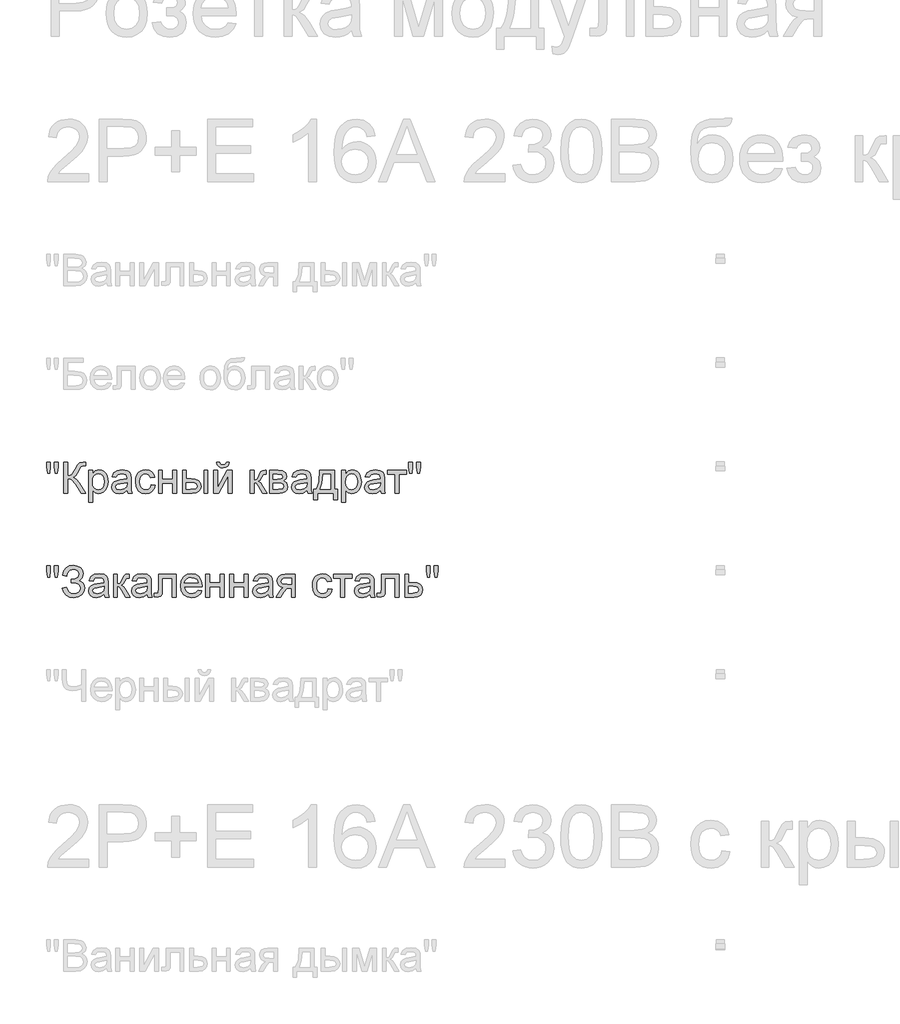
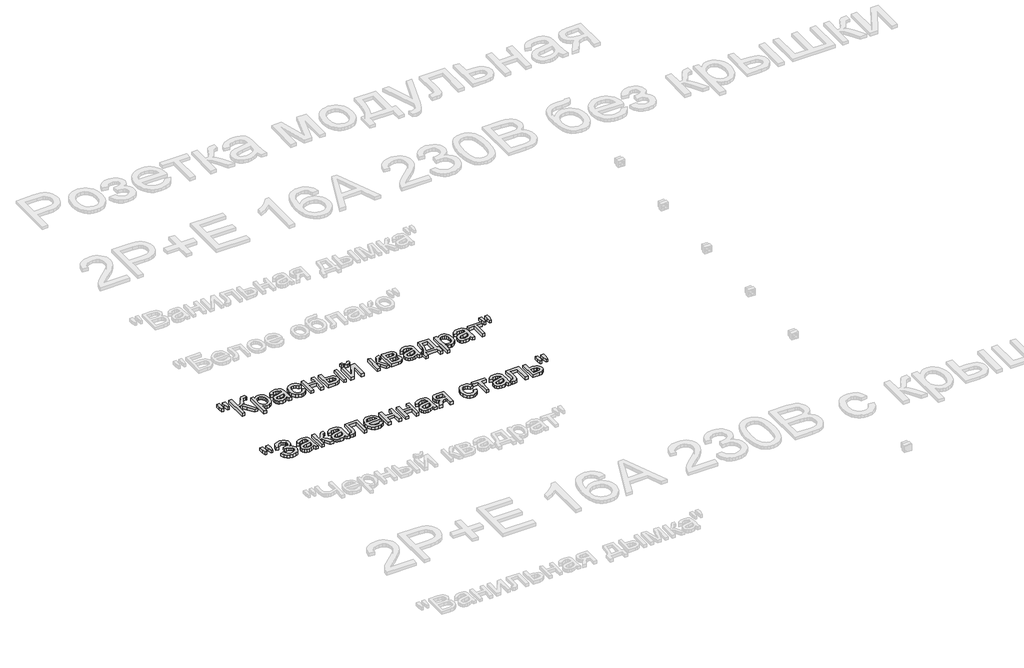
# One storey, part 48 of 168: 2 proxies.
"""IFC4 building model written with IfcOpenShell, lengths in millimetres."""

from ifc_helpers import new_model, si_unit, origin, origin_with_axes, place, context, project, spatial, polyline, outline, extrude, element, save

model = new_model("IFC4")

# Units and contexts
model_context = context("Model", 3, world=origin())
ifc_project = project(units=[si_unit("LENGTHUNIT", "METRE", prefix="MILLI")], contexts=[model_context])

# Site, building, storey
site = spatial("IfcSite", under=ifc_project)
building = spatial("IfcBuilding", under=site)
storey = spatial("IfcBuildingStorey", under=building, Name="Этаж 01", Elevation=0.0)

# Proxies
placement = place(None, origin())
element("IfcBuildingElementProxy", 1, Name="150", ObjectType="150", at=placement, inside=storey, context=model_context, shape_type="SweptSolid", body=[
    extrude(outline(polyline([(41980.1485789, -33070.3300622), (41975.550054, -33041.2305964), (41975.550054, -33016.1778325), (41994.3856121, -33016.1778325), (41994.3856121, -33041.2305964), (41990.2653338, -33070.3300622), (41980.1485789, -33070.3300622)])), origin_with_axes(), (0.0, 0.0, 1.0), 20.0),
    extrude(outline(polyline([(42017.7093306, -33070.3300622), (42013.2211703, -33041.2305964), (42013.2211703, -33016.1778325), (42032.0567284, -33016.1778325), (42032.0567284, -33041.2305964), (42027.6421445, -33070.3300622), (42017.7093306, -33070.3300622)])), origin_with_axes(), (0.0, 0.0, 1.0), 20.0),
    extrude(outline(polyline([(42057.9556209, -33016.1778325), (42076.791179, -33016.1778325), (42076.791179, -33082.102286), (42089.5428887, -33080.8560858), (42097.8524233, -33077.117485), (42112.549309, -33051.8991742), (42122.9419753, -33030.83793), (42134.7141992, -33020.4084755), (42151.5448005, -33016.1778325), (42163.9056355, -33016.3985617), (42163.9056355, -33035.2341199), (42159.748569, -33035.1237553), (42155.5915024, -33035.0133907), (42140.8762226, -33039.5383392), (42129.6926099, -33058.9257203), (42116.3568876, -33082.5437444), (42103.3522591, -33090.3428427), (42117.892795, -33098.8593109), (42132.2309957, -33116.6096172), (42163.9056355, -33166.8622977), (42142.053445, -33166.8622977), (42115.2716357, -33124.4087155), (42096.4176835, -33102.2438253), (42087.7126758, -33097.7326723), (42076.791179, -33096.2289547), (42076.791179, -33166.8622977), (42057.9556209, -33166.8622977), (42057.9556209, -33016.1778325)])), origin_with_axes(), (0.0, 0.0, 1.0), 20.0),
    extrude(outline(polyline([(42178.0323041, -33209.2423036), (42178.0323041, -33056.2033936), (42196.8678623, -33056.2033936), (42196.8678623, -33074.6710697), (42209.8908849, -33059.054479), (42227.4756443, -33053.8489488), (42240.2135583, -33055.6699647), (42251.3511858, -33061.1330123), (42260.4194769, -33069.9069979), (42266.9493823, -33081.6608277), (42272.2100949, -33110.6867171), (42270.7247713, -33126.7953499), (42266.2688007, -33141.2025286), (42258.9847372, -33153.1770875), (42249.0151351, -33161.9878613), (42237.4038596, -33167.4095222), (42225.1947759, -33169.2167425), (42208.805633, -33164.3790943), (42196.8678623, -33152.1470179), (42196.8678623, -33209.2423036), (42178.0323041, -33209.2423036)]), holes=[polyline([(42196.8678623, -33112.4157624), (42198.9050088, -33129.301546), (42205.0164485, -33141.1105581), (42214.0341559, -33148.0635278), (42224.7901057, -33150.3811843), (42235.7207995, -33147.9807543), (42244.9684331, -33140.7794643), (42251.2730108, -33128.5381909), (42253.3745367, -33111.0178109), (42251.3235946, -33094.2239978), (42245.1707682, -33082.2494388), (42236.1668564, -33075.0757399), (42225.5626579, -33072.684507), (42214.9170727, -33075.2274913), (42205.5682715, -33082.8564441), (42199.0429646, -33095.3322423), (42196.8678623, -33112.4157624)])]), origin_with_axes(), (0.0, 0.0, 1.0), 20.0),
    extrude(outline(polyline([(42364.0334409, -33152.7356291), (42345.7680998, -33165.5011344), (42325.5897724, -33169.2167425), (42309.8490215, -33166.9818594), (42298.237746, -33160.27721), (42291.0778427, -33150.0960758), (42288.6912083, -33137.4317381), (42292.2964518, -33122.5325173), (42301.7694132, -33111.7167867), (42314.9579827, -33105.5363691), (42331.2551551, -33102.7036778), (42363.9230763, -33096.2289547), (42364.0334409, -33092.0350999), (42362.7366568, -33083.6289963), (42358.8463047, -33078.1291605), (42350.1458956, -33074.0456704), (42338.0241838, -33072.684507), (42318.9678965, -33076.3081446), (42309.8812112, -33089.1656204), (42291.045653, -33086.8111756), (42299.1942392, -33068.4170758), (42315.6017762, -33057.6381334), (42340.452205, -33053.8489488), (42363.2792828, -33057.196675), (42376.1735467, -33065.6027786), (42381.949294, -33078.3866779), (42382.868999, -33094.8677913), (42382.868999, -33118.3018744), (42383.8254922, -33151.0249778), (42387.5778886, -33166.8622977), (42368.7423304, -33166.8622977), (42364.0334409, -33152.7356291)]), holes=[polyline([(42364.0334409, -33115.0645128), (42333.6463881, -33120.8402601), (42317.4411862, -33123.8936807), (42310.1019404, -33128.8600876), (42307.5267664, -33136.1073629), (42313.1369668, -33146.2976942), (42329.5996861, -33150.3811843), (42348.6559735, -33145.8746299), (42360.9432321, -33134.9669288), (42363.9230763, -33120.3988017), (42364.0334409, -33115.0645128)])]), origin_with_axes(), (0.0, 0.0, 1.0), 20.0),
    extrude(outline(polyline([(42479.4012346, -33126.8367367), (42498.2367927, -33129.1911814), (42492.9852772, -33145.9436078), (42483.1168427, -33158.6033469), (42469.5603912, -33166.5633936), (42453.2448247, -33169.2167425), (42433.2090515, -33165.5149299), (42417.5418771, -33154.4094922), (42407.4297207, -33136.387873), (42404.0590019, -33111.9375159), (42405.4983403, -33095.1758924), (42409.8163552, -33080.6491522), (42417.0820246, -33068.918315), (42427.3643263, -33060.5444011), (42439.6653806, -33055.5228119), (42452.9873073, -33053.8489488), (42468.9028021, -33056.1482113), (42481.6269206, -33063.0459987), (42490.7549926, -33074.174429), (42495.8823479, -33089.1656204), (42477.0467898, -33091.5200651), (42468.3095924, -33077.4117906), (42453.1344601, -33072.684507), (42440.9621646, -33075.0113606), (42431.3006637, -33081.9919214), (42424.996086, -33094.0032686), (42422.8945601, -33111.4224811), (42424.9501007, -33129.0762183), (42431.1167227, -33141.1289522), (42440.6034796, -33148.0681263), (42452.6194253, -33150.3811843), (42462.3728967, -33148.9372475), (42470.3697316, -33144.605437), (42476.1868656, -33137.2753883), (42479.4012346, -33126.8367367)])), origin_with_axes(), (0.0, 0.0, 1.0), 20.0),
    extrude(outline(polyline([(42514.7179061, -33056.2033936), (42533.5534643, -33056.2033936), (42533.5534643, -33098.5833994), (42582.9968044, -33098.5833994), (42582.9968044, -33056.2033936), (42601.8323626, -33056.2033936), (42601.8323626, -33166.8622977), (42582.9968044, -33166.8622977), (42582.9968044, -33117.4189576), (42533.5534643, -33117.4189576), (42533.5534643, -33166.8622977), (42514.7179061, -33166.8622977), (42514.7179061, -33056.2033936)])), origin_with_axes(), (0.0, 0.0, 1.0), 20.0),
    extrude(outline(polyline([(42733.6812696, -33056.2033936), (42752.5168278, -33056.2033936), (42752.5168278, -33166.8622977), (42733.6812696, -33166.8622977), (42733.6812696, -33056.2033936)])), origin_with_axes(), (0.0, 0.0, 1.0), 20.0),
    extrude(outline(polyline([(42630.0856998, -33056.2033936), (42648.9212579, -33056.2033936), (42648.9212579, -33096.2289547), (42672.2081882, -33096.2289547), (42692.3359319, -33098.587998), (42707.2489483, -33105.6651278), (42716.4781878, -33116.8901272), (42719.554601, -33131.692779), (42716.9748285, -33145.1710556), (42709.235511, -33156.5432078), (42695.8308108, -33164.2825252), (42676.2548902, -33166.8622977), (42630.0856998, -33166.8622977), (42630.0856998, -33056.2033936)]), holes=[polyline([(42648.9212579, -33148.0267396), (42668.2718509, -33148.0267396), (42693.2510384, -33144.0720081), (42698.8520417, -33139.0090322), (42700.7190429, -33131.7295672), (42695.1824188, -33120.1412843), (42686.3026672, -33116.3337057), (42670.7366603, -33115.0645128), (42648.9212579, -33115.0645128), (42648.9212579, -33148.0267396)])]), origin_with_axes(), (0.0, 0.0, 1.0), 20.0),
    extrude(outline(polyline([(42841.985729, -33016.1778325), (42856.1123976, -33016.1778325), (42853.0727726, -33028.2397634), (42846.97053, -33037.1287121), (42838.0815813, -33042.6055553), (42826.681838, -33044.4311697), (42814.3118059, -33042.6193509), (42804.7192829, -33037.1838944), (42798.1617863, -33028.3087413), (42794.8968336, -33016.1778325), (42809.0235022, -33016.1778325), (42814.321003, -33026.7912281), (42824.9895808, -33030.3045011), (42836.6882283, -33026.9015927), (42841.985729, -33016.1778325)])), origin_with_axes(), (0.0, 0.0, 1.0), 20.0),
    extrude(outline(polyline([(42780.770165, -33056.2033936), (42799.6057232, -33056.2033936), (42799.6057232, -33140.5955233), (42845.8852782, -33056.2033936), (42870.2390662, -33056.2033936), (42870.2390662, -33166.8622977), (42851.4035081, -33166.8622977), (42851.4035081, -33082.9852028), (42805.4182587, -33166.8622977), (42780.770165, -33166.8622977), (42780.770165, -33056.2033936)])), origin_with_axes(), (0.0, 0.0, 1.0), 20.0),
    extrude(outline(polyline([(42957.3535227, -33056.2033936), (42976.1890808, -33056.2033936), (42976.1890808, -33103.292289), (42988.8074333, -33099.9077746), (42999.1449173, -33080.1892997), (43007.7349619, -33063.1747574), (43015.313331, -33057.6381334), (43029.0905118, -33056.2033936), (43032.6957553, -33056.2033936), (43032.6957553, -33075.1493163), (43027.6189838, -33075.0389517), (43018.4219339, -33077.0255145), (43011.9472108, -33089.4231377), (43004.3504476, -33102.8324365), (42993.7002638, -33109.3991301), (43005.5828523, -33116.7291788), (43017.2447115, -33132.1710256), (43037.4046448, -33166.8622977), (43015.9939127, -33166.8622977), (42996.2386496, -33132.9067896), (42986.3058357, -33118.5409977), (42976.1890808, -33115.0645128), (42976.1890808, -33166.8622977), (42957.3535227, -33166.8622977), (42957.3535227, -33056.2033936)])), origin_with_axes(), (0.0, 0.0, 1.0), 20.0),
    extrude(outline(polyline([(43049.1768687, -33056.2033936), (43090.6739577, -33056.2033936), (43113.4274591, -33058.7233853), (43126.2297526, -33067.9572233), (43131.5824356, -33084.0520606), (43128.3450741, -33097.1302655), (43118.5962012, -33106.4560741), (43131.2513418, -33116.6647995), (43136.2913251, -33134.4151058), (43133.0999488, -33148.7717006), (43125.5123827, -33158.8792584), (43113.5010355, -33164.8665379), (43097.0383163, -33166.8622977), (43049.1768687, -33166.8622977), (43049.1768687, -33056.2033936)]), holes=[polyline([(43068.0124268, -33098.5833994), (43086.6272558, -33098.5833994), (43101.9863291, -33097.6269062), (43109.4543336, -33093.8009335), (43112.7468775, -33086.884752), (43111.3029406, -33081.2653545), (43106.9711301, -33077.6509139), (43087.215867, -33075.0389517), (43068.0124268, -33075.0389517), (43068.0124268, -33098.5833994)]), polyline([(43068.0124268, -33148.0267396), (43091.1154161, -33148.0267396), (43111.6064433, -33144.6238311), (43115.8462833, -33139.9839195), (43117.455767, -33132.8700014), (43114.2367995, -33123.8017102), (43105.84909, -33118.5226036), (43089.2760062, -33117.4189576), (43068.0124268, -33117.4189576), (43068.0124268, -33148.0267396)])]), origin_with_axes(), (0.0, 0.0, 1.0), 20.0),
    extrude(outline(polyline([(43230.4691159, -33152.7356291), (43212.2037749, -33165.5011344), (43192.0254474, -33169.2167425), (43176.2846965, -33166.9818594), (43164.6734211, -33160.27721), (43157.5135177, -33150.0960758), (43155.1268833, -33137.4317381), (43158.7321269, -33122.5325173), (43168.2050882, -33111.7167867), (43181.3936578, -33105.5363691), (43197.6908301, -33102.7036778), (43230.3587513, -33096.2289547), (43230.4691159, -33092.0350999), (43229.1723319, -33083.6289963), (43225.2819798, -33078.1291605), (43216.5815706, -33074.0456704), (43204.4598589, -33072.684507), (43185.4035715, -33076.3081446), (43176.3168862, -33089.1656204), (43157.4813281, -33086.8111756), (43165.6299143, -33068.4170758), (43182.0374512, -33057.6381334), (43206.88788, -33053.8489488), (43229.7149578, -33057.196675), (43242.6092218, -33065.6027786), (43248.3849691, -33078.3866779), (43249.3046741, -33094.8677913), (43249.3046741, -33118.3018744), (43250.2611673, -33151.0249778), (43254.0135636, -33166.8622977), (43235.1780055, -33166.8622977), (43230.4691159, -33152.7356291)]), holes=[polyline([(43230.4691159, -33115.0645128), (43200.0820631, -33120.8402601), (43183.8768612, -33123.8936807), (43176.5376154, -33128.8600876), (43173.9624415, -33136.1073629), (43179.5726419, -33146.2976942), (43196.0353612, -33150.3811843), (43215.0916485, -33145.8746299), (43227.3789072, -33134.9669288), (43230.3587513, -33120.3988017), (43230.4691159, -33115.0645128)])]), origin_with_axes(), (0.0, 0.0, 1.0), 20.0),
    extrude(outline(polyline([(43291.6846799, -33056.2033936), (43362.318023, -33056.2033936), (43362.318023, -33148.0267396), (43376.4446916, -33148.0267396), (43376.4446916, -33197.4700797), (43357.6091334, -33197.4700797), (43357.6091334, -33166.8622977), (43279.9124561, -33166.8622977), (43279.9124561, -33197.4700797), (43261.0768979, -33197.4700797), (43261.0768979, -33148.0267396), (43272.8491218, -33148.0267396), (43281.4069767, -33132.5619002), (43287.3988547, -33112.1030628), (43291.6846799, -33056.2033936)]), holes=[polyline([(43308.1657933, -33075.0389517), (43303.7512094, -33117.9523865), (43294.0391247, -33148.0267396), (43343.4824648, -33148.0267396), (43343.4824648, -33075.0389517), (43308.1657933, -33075.0389517)])]), origin_with_axes(), (0.0, 0.0, 1.0), 20.0),
    extrude(outline(polyline([(43397.6346945, -33209.2423036), (43397.6346945, -33056.2033936), (43416.4702527, -33056.2033936), (43416.4702527, -33074.6710697), (43429.4932753, -33059.054479), (43447.0780347, -33053.8489488), (43459.8159488, -33055.6699647), (43470.9535762, -33061.1330123), (43480.0218673, -33069.9069979), (43486.5517728, -33081.6608277), (43491.8124853, -33110.6867171), (43490.3271617, -33126.7953499), (43485.8711911, -33141.2025286), (43478.5871276, -33153.1770875), (43468.6175255, -33161.9878613), (43457.00625, -33167.4095222), (43444.7971663, -33169.2167425), (43428.4080234, -33164.3790943), (43416.4702527, -33152.1470179), (43416.4702527, -33209.2423036), (43397.6346945, -33209.2423036)]), holes=[polyline([(43416.4702527, -33112.4157624), (43418.5073992, -33129.301546), (43424.6188389, -33141.1105581), (43433.6365463, -33148.0635278), (43444.3924961, -33150.3811843), (43455.3231899, -33147.9807543), (43464.5708235, -33140.7794643), (43470.8754012, -33128.5381909), (43472.9769271, -33111.0178109), (43470.925985, -33094.2239978), (43464.7731586, -33082.2494388), (43455.7692468, -33075.0757399), (43445.1650483, -33072.684507), (43434.5194631, -33075.2274913), (43425.1706619, -33082.8564441), (43418.645355, -33095.3322423), (43416.4702527, -33112.4157624)])]), origin_with_axes(), (0.0, 0.0, 1.0), 20.0),
    extrude(outline(polyline([(43583.6358313, -33152.7356291), (43565.3704902, -33165.5011344), (43545.1921628, -33169.2167425), (43529.4514119, -33166.9818594), (43517.8401364, -33160.27721), (43510.6802331, -33150.0960758), (43508.2935987, -33137.4317381), (43511.8988422, -33122.5325173), (43521.3718036, -33111.7167867), (43534.5603731, -33105.5363691), (43550.8575455, -33102.7036778), (43583.5254667, -33096.2289547), (43583.6358313, -33092.0350999), (43582.3390473, -33083.6289963), (43578.4486952, -33078.1291605), (43569.748286, -33074.0456704), (43557.6265742, -33072.684507), (43538.5702869, -33076.3081446), (43529.4836016, -33089.1656204), (43510.6480434, -33086.8111756), (43518.7966296, -33068.4170758), (43535.2041666, -33057.6381334), (43560.0545954, -33053.8489488), (43582.8816732, -33057.196675), (43595.7759371, -33065.6027786), (43601.5516844, -33078.3866779), (43602.4713894, -33094.8677913), (43602.4713894, -33118.3018744), (43603.4278826, -33151.0249778), (43607.180279, -33166.8622977), (43588.3447208, -33166.8622977), (43583.6358313, -33152.7356291)]), holes=[polyline([(43583.6358313, -33115.0645128), (43553.2487785, -33120.8402601), (43537.0435766, -33123.8936807), (43529.7043308, -33128.8600876), (43527.1291568, -33136.1073629), (43532.7393573, -33146.2976942), (43549.2020765, -33150.3811843), (43568.2583639, -33145.8746299), (43580.5456225, -33134.9669288), (43583.5254667, -33120.3988017), (43583.6358313, -33115.0645128)])]), origin_with_axes(), (0.0, 0.0, 1.0), 20.0),
    extrude(outline(polyline([(43618.9525028, -33056.2033936), (43708.421404, -33056.2033936), (43708.421404, -33075.0389517), (43673.1047325, -33075.0389517), (43673.1047325, -33166.8622977), (43654.2691744, -33166.8622977), (43654.2691744, -33075.0389517), (43618.9525028, -33075.0389517), (43618.9525028, -33056.2033936)])), origin_with_axes(), (0.0, 0.0, 1.0), 20.0),
    extrude(outline(polyline([(43724.7921528, -33070.3300622), (43720.1936279, -33041.2305964), (43720.1936279, -33016.1778325), (43739.029186, -33016.1778325), (43739.029186, -33041.2305964), (43734.9089077, -33070.3300622), (43724.7921528, -33070.3300622)])), origin_with_axes(), (0.0, 0.0, 1.0), 20.0),
    extrude(outline(polyline([(43762.3529045, -33070.3300622), (43757.8647442, -33041.2305964), (43757.8647442, -33016.1778325), (43776.7003024, -33016.1778325), (43776.7003024, -33041.2305964), (43772.2857184, -33070.3300622), (43762.3529045, -33070.3300622)])), origin_with_axes(), (0.0, 0.0, 1.0), 20.0),
])
element("IfcBuildingElementProxy", 2, Name="150", ObjectType="150", at=placement, inside=storey, context=model_context, shape_type="SweptSolid", body=[
    extrude(outline(polyline([(41980.1485789, -33570.3300622), (41975.550054, -33541.2305964), (41975.550054, -33516.1778325), (41994.3856121, -33516.1778325), (41994.3856121, -33541.2305964), (41990.2653338, -33570.3300622), (41980.1485789, -33570.3300622)])), origin_with_axes(), (0.0, 0.0, 1.0), 20.0),
    extrude(outline(polyline([(42017.7093306, -33570.3300622), (42013.2211703, -33541.2305964), (42013.2211703, -33516.1778325), (42032.0567284, -33516.1778325), (42032.0567284, -33541.2305964), (42027.6421445, -33570.3300622), (42017.7093306, -33570.3300622)])), origin_with_axes(), (0.0, 0.0, 1.0), 20.0),
    extrude(outline(polyline([(42050.8922866, -33624.4822919), (42069.7278447, -33619.7734024), (42081.2977335, -33640.172459), (42092.2284273, -33647.829003), (42106.2217387, -33650.3811843), (42120.398991, -33648.4635995), (42131.2193202, -33642.7108448), (42138.0757209, -33634.2449603), (42140.3611878, -33624.1879863), (42137.8641888, -33613.6527657), (42130.3731916, -33605.517975), (42118.5779752, -33600.3170433), (42103.1683181, -33598.5833994), (42093.2722924, -33598.5833994), (42093.2722924, -33579.7478413), (42114.591054, -33578.221131), (42127.6324708, -33570.4220327), (42133.2978535, -33556.1666054), (42131.4124583, -33547.2960508), (42125.7562726, -33539.6670979), (42116.8811195, -33534.4109839), (42105.3388219, -33532.6589459), (42086.1169876, -33538.0484171), (42075.117316, -33552.3406326), (42072.0822895, -33565.6211727), (42053.2467313, -33560.9122831), (42059.0983543, -33540.3108914), (42069.7002536, -33525.5956116), (42085.0524291, -33516.7664437), (42105.1548809, -33513.8233877), (42124.5468605, -33516.8814068), (42139.4598769, -33526.0554641), (42148.965028, -33539.3222085), (42152.1334117, -33554.6582892), (42147.2037929, -33573.3007093), (42132.4149367, -33587.2158458), (42142.8903765, -33592.0396984), (42151.5080123, -33600.1836861), (42157.2745625, -33610.948833), (42159.196746, -33623.6361633), (42155.508729, -33641.4738415), (42144.444678, -33656.1385376), (42127.2921799, -33665.9471913), (42105.3388219, -33669.2167425), (42086.2365493, -33666.4208393), (42070.7947025, -33658.0331298), (42059.0132816, -33644.053614), (42050.8922866, -33624.4822919)])), origin_with_axes(), (0.0, 0.0, 1.0), 20.0),
    extrude(outline(polyline([(42253.3745367, -33652.7356291), (42235.1091957, -33665.5011344), (42214.9308682, -33669.2167425), (42199.1901174, -33666.9818594), (42187.5788419, -33660.27721), (42180.4189386, -33650.0960758), (42178.0323041, -33637.4317381), (42181.6375477, -33622.5325173), (42191.110509, -33611.7167867), (42204.2990786, -33605.5363691), (42220.596251, -33602.7036778), (42253.2641721, -33596.2289547), (42253.3745367, -33592.0350999), (42252.0777527, -33583.6289963), (42248.1874006, -33578.1291605), (42239.4869914, -33574.0456704), (42227.3652797, -33572.684507), (42208.3089923, -33576.3081446), (42199.222307, -33589.1656204), (42180.3867489, -33586.8111756), (42188.5353351, -33568.4170758), (42204.9428721, -33557.6381334), (42229.7933008, -33553.8489488), (42252.6203786, -33557.196675), (42265.5146426, -33565.6027786), (42271.2903899, -33578.3866779), (42272.2100949, -33594.8677913), (42272.2100949, -33618.3018744), (42273.1665881, -33651.0249778), (42276.9189844, -33666.8622977), (42258.0834263, -33666.8622977), (42253.3745367, -33652.7356291)]), holes=[polyline([(42253.3745367, -33615.0645128), (42222.9874839, -33620.8402601), (42206.782282, -33623.8936807), (42199.4430362, -33628.8600876), (42196.8678623, -33636.1073629), (42202.4780627, -33646.2976942), (42218.940782, -33650.3811843), (42237.9970693, -33645.8746299), (42250.284328, -33634.9669288), (42253.2641721, -33620.3988017), (42253.3745367, -33615.0645128)])]), origin_with_axes(), (0.0, 0.0, 1.0), 20.0),
    extrude(outline(polyline([(42298.1089873, -33556.2033936), (42316.9445455, -33556.2033936), (42316.9445455, -33603.292289), (42329.5628979, -33599.9077746), (42339.900382, -33580.1892997), (42348.4904266, -33563.1747574), (42356.0687957, -33557.6381334), (42369.8459764, -33556.2033936), (42373.4512199, -33556.2033936), (42373.4512199, -33575.1493163), (42368.3744484, -33575.0389517), (42359.1773985, -33577.0255145), (42352.7026754, -33589.4231377), (42345.1059122, -33602.8324365), (42334.4557285, -33609.3991301), (42346.3383169, -33616.7291788), (42358.0001762, -33632.1710256), (42378.1601095, -33666.8622977), (42356.7493774, -33666.8622977), (42336.9941142, -33632.9067896), (42327.0613004, -33618.5409977), (42316.9445455, -33615.0645128), (42316.9445455, -33666.8622977), (42298.1089873, -33666.8622977), (42298.1089873, -33556.2033936)])), origin_with_axes(), (0.0, 0.0, 1.0), 20.0),
    extrude(outline(polyline([(42460.5656764, -33652.7356291), (42442.3003353, -33665.5011344), (42422.1220079, -33669.2167425), (42406.381257, -33666.9818594), (42394.7699816, -33660.27721), (42387.6100782, -33650.0960758), (42385.2234438, -33637.4317381), (42388.8286873, -33622.5325173), (42398.3016487, -33611.7167867), (42411.4902183, -33605.5363691), (42427.7873906, -33602.7036778), (42460.4553118, -33596.2289547), (42460.5656764, -33592.0350999), (42459.2688924, -33583.6289963), (42455.3785403, -33578.1291605), (42446.6781311, -33574.0456704), (42434.5564193, -33572.684507), (42415.500132, -33576.3081446), (42406.4134467, -33589.1656204), (42387.5778886, -33586.8111756), (42395.7264748, -33568.4170758), (42412.1340117, -33557.6381334), (42436.9844405, -33553.8489488), (42459.8115183, -33557.196675), (42472.7057822, -33565.6027786), (42478.4815296, -33578.3866779), (42479.4012346, -33594.8677913), (42479.4012346, -33618.3018744), (42480.3577277, -33651.0249778), (42484.1101241, -33666.8622977), (42465.2745659, -33666.8622977), (42460.5656764, -33652.7356291)]), holes=[polyline([(42460.5656764, -33615.0645128), (42430.1786236, -33620.8402601), (42413.9734217, -33623.8936807), (42406.6341759, -33628.8600876), (42404.0590019, -33636.1073629), (42409.6692024, -33646.2976942), (42426.1319217, -33650.3811843), (42445.188209, -33645.8746299), (42457.4754676, -33634.9669288), (42460.4553118, -33620.3988017), (42460.5656764, -33615.0645128)])]), origin_with_axes(), (0.0, 0.0, 1.0), 20.0),
    extrude(outline(polyline([(42514.7179061, -33556.2033936), (42599.4779178, -33556.2033936), (42599.4779178, -33666.7519331), (42580.6423596, -33666.7519331), (42580.6423596, -33575.0389517), (42533.5534643, -33575.0389517), (42533.5534643, -33627.830018), (42532.2842714, -33652.1838061), (42525.3129076, -33662.4661079), (42508.8317942, -33666.8622977), (42493.5279032, -33665.9058045), (42493.5279032, -33648.0267396), (42501.9524009, -33648.0267396), (42510.4688691, -33646.8679113), (42513.8717775, -33643.1890913), (42514.7179061, -33626.7631603), (42514.7179061, -33556.2033936)])), origin_with_axes(), (0.0, 0.0, 1.0), 20.0),
    extrude(outline(polyline([(42705.2072032, -33633.900071), (42723.6748794, -33636.2545157), (42717.0208138, -33650.1696522), (42706.4028197, -33660.5715156), (42692.0600204, -33667.0554358), (42674.2315392, -33669.2167425), (42652.1310283, -33665.4873388), (42635.1256831, -33654.2991276), (42624.2823613, -33636.3786759), (42620.6679207, -33612.4525506), (42624.3191495, -33587.7216835), (42635.2728359, -33569.2264162), (42652.0482549, -33557.6933157), (42673.1646814, -33553.8489488), (42693.6235189, -33557.6841186), (42709.971275, -33569.189628), (42720.6904367, -33587.6481071), (42724.2634906, -33612.342186), (42724.153126, -33617.4189576), (42639.5034789, -33617.4189576), (42642.763833, -33631.518035), (42650.3376036, -33641.8831103), (42661.2682974, -33648.2566658), (42674.5994212, -33650.3811843), (42693.0670974, -33646.444847), (42705.2072032, -33633.900071)]), holes=[polyline([(42639.5034789, -33598.5833994), (42705.4279324, -33598.5833994), (42702.8803496, -33588.6321915), (42697.8863515, -33581.5136749), (42686.9050739, -33574.8917989), (42673.091105, -33572.684507), (42660.3945777, -33574.445742), (42649.8961452, -33579.7294472), (42642.5982861, -33587.9654053), (42639.5034789, -33598.5833994)])]), origin_with_axes(), (0.0, 0.0, 1.0), 20.0),
    extrude(outline(polyline([(42743.0990487, -33556.2033936), (42761.9346069, -33556.2033936), (42761.9346069, -33598.5833994), (42811.377947, -33598.5833994), (42811.377947, -33556.2033936), (42830.2135052, -33556.2033936), (42830.2135052, -33666.8622977), (42811.377947, -33666.8622977), (42811.377947, -33617.4189576), (42761.9346069, -33617.4189576), (42761.9346069, -33666.8622977), (42743.0990487, -33666.8622977), (42743.0990487, -33556.2033936)])), origin_with_axes(), (0.0, 0.0, 1.0), 20.0),
    extrude(outline(polyline([(42858.4668424, -33556.2033936), (42877.3024005, -33556.2033936), (42877.3024005, -33598.5833994), (42926.7457407, -33598.5833994), (42926.7457407, -33556.2033936), (42945.5812988, -33556.2033936), (42945.5812988, -33666.8622977), (42926.7457407, -33666.8622977), (42926.7457407, -33617.4189576), (42877.3024005, -33617.4189576), (42877.3024005, -33666.8622977), (42858.4668424, -33666.8622977), (42858.4668424, -33556.2033936)])), origin_with_axes(), (0.0, 0.0, 1.0), 20.0),
    extrude(outline(polyline([(43044.4679792, -33652.7356291), (43026.2026381, -33665.5011344), (43006.0243107, -33669.2167425), (42990.2835598, -33666.9818594), (42978.6722843, -33660.27721), (42971.512381, -33650.0960758), (42969.1257465, -33637.4317381), (42972.7309901, -33622.5325173), (42982.2039515, -33611.7167867), (42995.392521, -33605.5363691), (43011.6896934, -33602.7036778), (43044.3576146, -33596.2289547), (43044.4679792, -33592.0350999), (43043.1711951, -33583.6289963), (43039.280843, -33578.1291605), (43030.5804338, -33574.0456704), (43018.4587221, -33572.684507), (42999.4024347, -33576.3081446), (42990.3157495, -33589.1656204), (42971.4801913, -33586.8111756), (42979.6287775, -33568.4170758), (42996.0363145, -33557.6381334), (43020.8867433, -33553.8489488), (43043.7138211, -33557.196675), (43056.608085, -33565.6027786), (43062.3838323, -33578.3866779), (43063.3035373, -33594.8677913), (43063.3035373, -33618.3018744), (43064.2600305, -33651.0249778), (43068.0124268, -33666.8622977), (43049.1768687, -33666.8622977), (43044.4679792, -33652.7356291)]), holes=[polyline([(43044.4679792, -33615.0645128), (43014.0809264, -33620.8402601), (42997.8757245, -33623.8936807), (42990.5364787, -33628.8600876), (42987.9613047, -33636.1073629), (42993.5715051, -33646.2976942), (43010.0342244, -33650.3811843), (43029.0905118, -33645.8746299), (43041.3777704, -33634.9669288), (43044.3576146, -33620.3988017), (43044.4679792, -33615.0645128)])]), origin_with_axes(), (0.0, 0.0, 1.0), 20.0),
    extrude(outline(polyline([(43173.9624415, -33556.2033936), (43173.9624415, -33666.8622977), (43155.1268833, -33666.8622977), (43155.1268833, -33624.4822919), (43144.8629756, -33624.4822919), (43130.8834598, -33626.8735249), (43117.7500726, -33642.949968), (43102.7404872, -33666.8622977), (43080.9618731, -33666.8622977), (43099.8710076, -33636.6223977), (43108.2219289, -33625.7698789), (43115.9106626, -33620.9506247), (43103.0347928, -33617.0050903), (43093.9848957, -33609.5094947), (43088.6322127, -33599.5398926), (43086.847985, -33588.172339), (43089.2852032, -33575.278075), (43096.5968579, -33565.0693497), (43108.5254316, -33558.4198826), (43124.8134069, -33556.2033936), (43173.9624415, -33556.2033936)]), holes=[polyline([(43155.1268833, -33575.0389517), (43130.2948486, -33575.0389517), (43117.4695626, -33576.1288021), (43110.1900976, -33579.3983534), (43105.6835431, -33589.6070787), (43107.3436107, -33596.7853762), (43112.3238132, -33601.7655787), (43135.8498668, -33605.6467337), (43155.1268833, -33605.6467337), (43155.1268833, -33575.0389517)])]), origin_with_axes(), (0.0, 0.0, 1.0), 20.0),
    extrude(outline(polyline([(43331.710241, -33626.8367367), (43350.5457991, -33629.1911814), (43345.2942837, -33645.9436078), (43335.4258491, -33658.6033469), (43321.8693976, -33666.5633936), (43305.5538311, -33669.2167425), (43285.518058, -33665.5149299), (43269.8508835, -33654.4094922), (43259.7387272, -33636.387873), (43256.3680084, -33611.9375159), (43257.8073467, -33595.1758924), (43262.1253616, -33580.6491522), (43269.391031, -33568.918315), (43279.6733328, -33560.5444011), (43291.974387, -33555.5228119), (43305.2963137, -33553.8489488), (43321.2118085, -33556.1482113), (43333.9359271, -33563.0459987), (43343.0639991, -33574.174429), (43348.1913544, -33589.1656204), (43329.3557962, -33591.5200651), (43320.6185988, -33577.4117906), (43305.4434665, -33572.684507), (43293.271171, -33575.0113606), (43283.6096701, -33581.9919214), (43277.3050924, -33594.0032686), (43275.2035665, -33611.4224811), (43277.2591072, -33629.0762183), (43283.4257291, -33641.1289522), (43292.9124861, -33648.0681263), (43304.9284317, -33650.3811843), (43314.6819031, -33648.9372475), (43322.678738, -33644.605437), (43328.4958721, -33637.2753883), (43331.710241, -33626.8367367)])), origin_with_axes(), (0.0, 0.0, 1.0), 20.0),
    extrude(outline(polyline([(43357.6091334, -33556.2033936), (43447.0780347, -33556.2033936), (43447.0780347, -33575.0389517), (43411.7613631, -33575.0389517), (43411.7613631, -33666.8622977), (43392.925805, -33666.8622977), (43392.925805, -33575.0389517), (43357.6091334, -33575.0389517), (43357.6091334, -33556.2033936)])), origin_with_axes(), (0.0, 0.0, 1.0), 20.0),
    extrude(outline(polyline([(43534.1924911, -33652.7356291), (43515.9271501, -33665.5011344), (43495.7488226, -33669.2167425), (43480.0080718, -33666.9818594), (43468.3967963, -33660.27721), (43461.236893, -33650.0960758), (43458.8502585, -33637.4317381), (43462.4555021, -33622.5325173), (43471.9284634, -33611.7167867), (43485.117033, -33605.5363691), (43501.4142054, -33602.7036778), (43534.0821265, -33596.2289547), (43534.1924911, -33592.0350999), (43532.8957071, -33583.6289963), (43529.005355, -33578.1291605), (43520.3049458, -33574.0456704), (43508.1832341, -33572.684507), (43489.1269467, -33576.3081446), (43480.0402614, -33589.1656204), (43461.2047033, -33586.8111756), (43469.3532895, -33568.4170758), (43485.7608265, -33557.6381334), (43510.6112552, -33553.8489488), (43533.438333, -33557.196675), (43546.332597, -33565.6027786), (43552.1083443, -33578.3866779), (43553.0280493, -33594.8677913), (43553.0280493, -33618.3018744), (43553.9845425, -33651.0249778), (43557.7369388, -33666.8622977), (43538.9013807, -33666.8622977), (43534.1924911, -33652.7356291)]), holes=[polyline([(43534.1924911, -33615.0645128), (43503.8054383, -33620.8402601), (43487.6002364, -33623.8936807), (43480.2609906, -33628.8600876), (43477.6858167, -33636.1073629), (43483.2960171, -33646.2976942), (43499.7587364, -33650.3811843), (43518.8150237, -33645.8746299), (43531.1022824, -33634.9669288), (43534.0821265, -33620.3988017), (43534.1924911, -33615.0645128)])]), origin_with_axes(), (0.0, 0.0, 1.0), 20.0),
    extrude(outline(polyline([(43588.3447208, -33556.2033936), (43673.1047325, -33556.2033936), (43673.1047325, -33666.7519331), (43654.2691744, -33666.7519331), (43654.2691744, -33575.0389517), (43607.180279, -33575.0389517), (43607.180279, -33627.830018), (43605.9110861, -33652.1838061), (43598.9397223, -33662.4661079), (43582.4586089, -33666.8622977), (43567.1547179, -33665.9058045), (43567.1547179, -33648.0267396), (43575.5792156, -33648.0267396), (43584.0956838, -33646.8679113), (43587.4985922, -33643.1890913), (43588.3447208, -33626.7631603), (43588.3447208, -33556.2033936)])), origin_with_axes(), (0.0, 0.0, 1.0), 20.0),
    extrude(outline(polyline([(43701.3580697, -33556.2033936), (43720.1936279, -33556.2033936), (43720.1936279, -33596.2289547), (43741.8986656, -33596.2289547), (43760.7158297, -33598.587998), (43774.6401632, -33605.6651278), (43783.2486019, -33616.8901272), (43786.1180814, -33631.692779), (43783.6762647, -33645.1710556), (43776.3508145, -33656.5432078), (43763.6542871, -33664.2825252), (43745.099239, -33666.8622977), (43701.3580697, -33666.8622977), (43701.3580697, -33556.2033936)]), holes=[polyline([(43720.1936279, -33648.0267396), (43737.7783873, -33648.0267396), (43760.4951005, -33644.0720081), (43765.5856676, -33639.0090322), (43767.2825233, -33631.7295672), (43762.260934, -33620.1412843), (43754.1905228, -33616.3337057), (43740.0224674, -33615.0645128), (43720.1936279, -33615.0645128), (43720.1936279, -33648.0267396)])]), origin_with_axes(), (0.0, 0.0, 1.0), 20.0),
    extrude(outline(polyline([(43809.5521645, -33570.3300622), (43804.9536396, -33541.2305964), (43804.9536396, -33516.1778325), (43823.7891977, -33516.1778325), (43823.7891977, -33541.2305964), (43819.6689194, -33570.3300622), (43809.5521645, -33570.3300622)])), origin_with_axes(), (0.0, 0.0, 1.0), 20.0),
    extrude(outline(polyline([(43847.1129162, -33570.3300622), (43842.6247559, -33541.2305964), (43842.6247559, -33516.1778325), (43861.460314, -33516.1778325), (43861.460314, -33541.2305964), (43857.0457301, -33570.3300622), (43847.1129162, -33570.3300622)])), origin_with_axes(), (0.0, 0.0, 1.0), 20.0),
])

save(model, "model.ifc")
